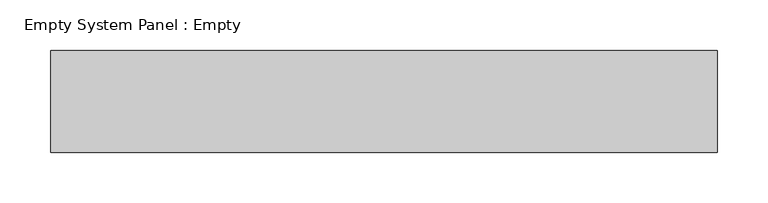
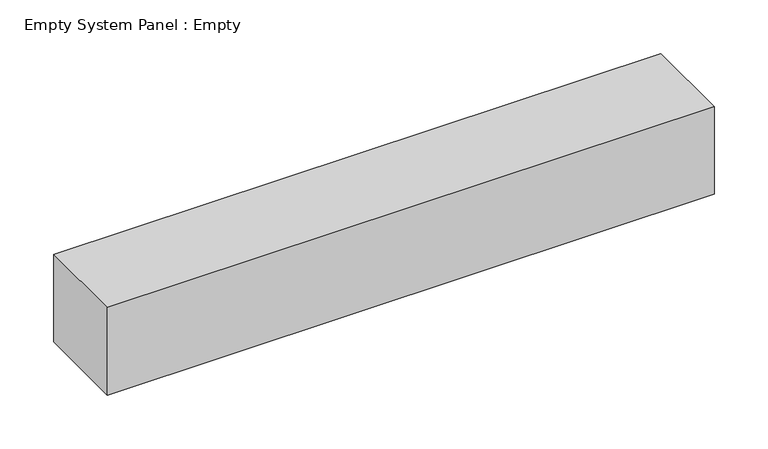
"""IFC4 building model written with IfcOpenShell, lengths in millimetres: plate geometry, Empty System Panel : Empty."""

from ifc_helpers import new_model, si_unit, origin, origin_with_axes, place, context, project, spatial, polyline, outline, extrude, source, transform, mapped, element, save


def empty_system_panel_empty_21350458(model_context):
    return source(origin(), model_context, "Body", "SweptSolid", [
        extrude(outline(polyline([(327.5, -50.0), (-327.5, -50.0), (-327.5, 50.0), (327.5, 50.0), (327.5, -50.0)])), origin_with_axes(), (0.0, 0.0, 1.0), 100.0),
    ])


if __name__ == "__main__":
    model = new_model("IFC4")
    model_context = context("Model", 3, world=origin())
    ifc_project = project(units=[si_unit("LENGTHUNIT", "METRE", prefix="MILLI")], contexts=[model_context])
    site = spatial("IfcSite", under=ifc_project)
    building = spatial("IfcBuilding", under=site)
    placement = place(None, origin())
    empty_system_panel_empty_shape = empty_system_panel_empty_21350458(model_context)
    element("IfcPlate", 1, ObjectType="Empty System Panel : Empty", at=placement, inside=building, context=model_context, shape_type="MappedRepresentation", body=[
        mapped(empty_system_panel_empty_shape, transform((0.0, 0.0, 0.0), x_axis=(1.0, 0.0, 0.0), y_axis=(0.0, 1.0, 0.0), z_axis=(0.0, 0.0, 1.0))),
    ])
    save(model, "model.ifc")
